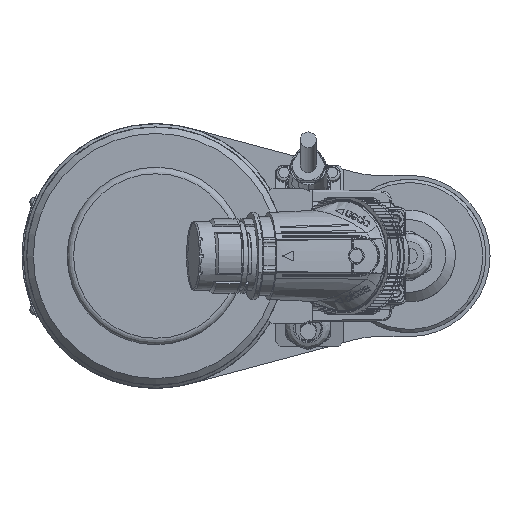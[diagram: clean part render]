
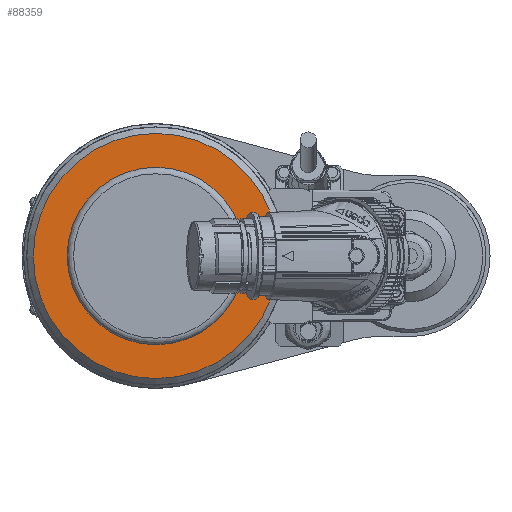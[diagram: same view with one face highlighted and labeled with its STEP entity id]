
A CAD part, left-side view. The second image highlights one B-rep face of the part: STEP entity #88359.
In plain terms, the highlighted planar face has unit normal (-1, 0, 0).
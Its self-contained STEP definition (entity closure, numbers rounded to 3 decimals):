
#2528 = CARTESIAN_POINT ( 'NONE',  ( -357.5, 0., 0. ) ) ;
#3377 = DIRECTION ( 'NONE',  ( 1., 0., 0. ) ) ;
#11504 = DIRECTION ( 'NONE',  ( 0., 0., 1. ) ) ;
#13148 = CIRCLE ( 'NONE', #83967, 37.999 ) ;
#19330 = VERTEX_POINT ( 'NONE', #81013 ) ;
#27534 = VERTEX_POINT ( 'NONE', #78680 ) ;
#31001 = ORIENTED_EDGE ( 'NONE', *, *, #94258, .T. ) ;
#36291 = FACE_BOUND ( 'NONE', #114413, .T. ) ;
#37743 = FACE_OUTER_BOUND ( 'NONE', #81236, .T. ) ;
#42274 = DIRECTION ( 'NONE',  ( 0., 0., 1. ) ) ;
#50960 = PLANE ( 'NONE',  #70218 ) ;
#56322 = ORIENTED_EDGE ( 'NONE', *, *, #76283, .T. ) ;
#57201 = CARTESIAN_POINT ( 'NONE',  ( -357.5, 0., 0. ) ) ;
#65427 = DIRECTION ( 'NONE',  ( -1., 0., 0. ) ) ;
#66295 = DIRECTION ( 'NONE',  ( 0., 0., -1. ) ) ;
#69093 = CARTESIAN_POINT ( 'NONE',  ( -357.5, 27.5, 0. ) ) ;
#70218 = AXIS2_PLACEMENT_3D ( 'NONE', #69093, #96135, #42274 ) ;
#76283 = EDGE_CURVE ( 'NONE', #27534, #27534, #13148, .T. ) ;
#78680 = CARTESIAN_POINT ( 'NONE',  ( -357.5, 0., 37.999 ) ) ;
#78985 = AXIS2_PLACEMENT_3D ( 'NONE', #57201, #3377, #66295 ) ;
#81013 = CARTESIAN_POINT ( 'NONE',  ( -357.5, 0., -27.5 ) ) ;
#81236 = EDGE_LOOP ( 'NONE', ( #56322 ) ) ;
#83967 = AXIS2_PLACEMENT_3D ( 'NONE', #2528, #65427, #11504 ) ;
#88359 = ADVANCED_FACE ( 'NONE', ( #37743, #36291 ), #50960, .T. ) ;
#94258 = EDGE_CURVE ( 'NONE', #19330, #19330, #109007, .T. ) ;
#96135 = DIRECTION ( 'NONE',  ( -1., 0., 0. ) ) ;
#109007 = CIRCLE ( 'NONE', #78985, 27.5 ) ;
#114413 = EDGE_LOOP ( 'NONE', ( #31001 ) ) ;
